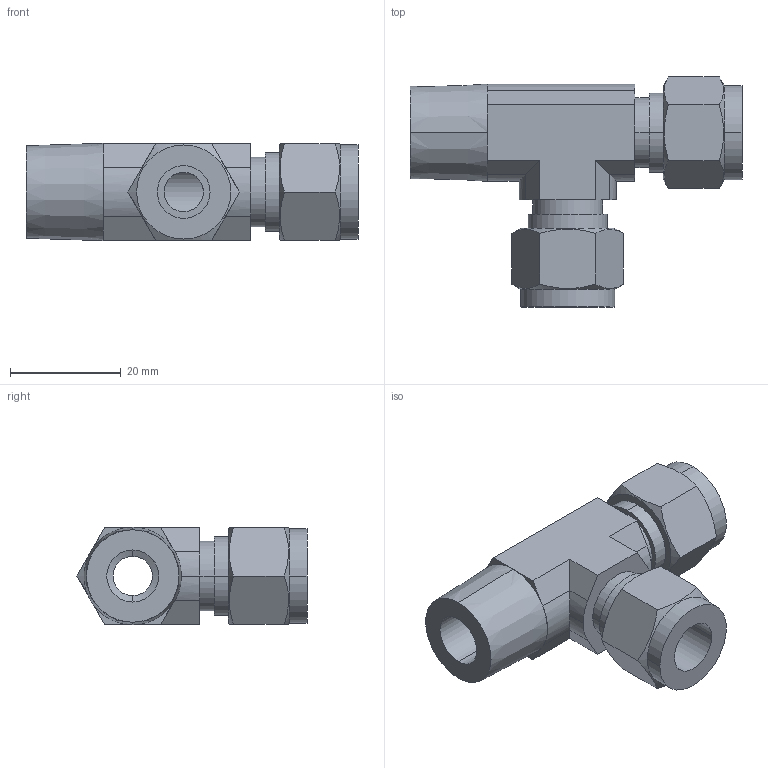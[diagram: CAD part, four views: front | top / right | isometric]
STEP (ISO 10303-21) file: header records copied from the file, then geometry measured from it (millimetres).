
FILE_DESCRIPTION (( 'STEP AP203' ), '1' );
FILE_NAME ('DTK 06-06 SS.STEP', '2009-09-08T10:03:17', ( ' ' ), ( '' ), 'SwSTEP 2.0', 'SolidWorks 2008', '' );
FILE_SCHEMA (( 'CONFIG_CONTROL_DESIGN' ));
Length unit declared in the file: millimetre
Products named in the file (1): DTK 06-06 SS
Bounding box: 60 x 41.58 x 17.6 mm (x, y, z)
Volume: 14435.2 mm3; surface area: 7991.6 mm2
Topology: 1 solids, 1 shells, 83 faces, 201 edges, 128 vertices
Faces by surface type: plane 43, cylinder 28, cone 12
Entity records: 2775 total; most frequent: CARTESIAN_POINT 762, ORIENTED_EDGE 402, DIRECTION 399, EDGE_CURVE 201, AXIS2_PLACEMENT_3D 151, VERTEX_POINT 128, VECTOR 97, LINE 97
